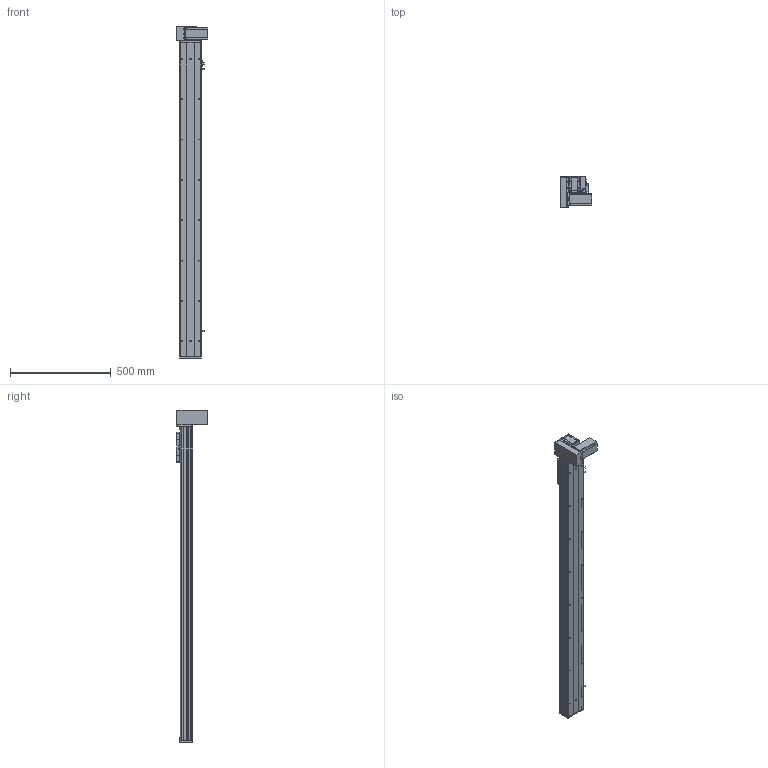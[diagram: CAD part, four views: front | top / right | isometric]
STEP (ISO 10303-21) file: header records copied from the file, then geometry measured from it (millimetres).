
FILE_DESCRIPTION (( 'STEP AP203' ), '1' );
FILE_NAME ('Y10CB-D90-S1300-BM-P400W.STEP', '2020-02-16T09:08:16', ( '微软用户' ), ( '微软中国' ), 'SwSTEP 2.0', 'SolidWorks 2017', '' );
FILE_SCHEMA (( 'CONFIG_CONTROL_DESIGN' ));
Length unit declared in the file: millimetre
Products named in the file (18): Y10B-耜蚾蟀諉啣----; Y10CB- 掛极耜裔啣-毀---; 0CB-雄赽釱---; Y10CB-D90-S1300-BM-P400W; Y10C---詩湍揤啣; 0Cb-俋欶---; 10CB9-掛极; Y10B-々湍喘謫眊楊擘啣--; 10CB-耜裔; 0B-萇儂楊擘啣; Y135C-陔俋离換覜結え-; san松下电机400不带刹车----; Y100-135俋离換覜ん--; 0B-源倛裔啣; Y10B--々湍喘謫眊--666; 0B-埴倛裔啣; 00B-俋欶BM--; 10CB-詩湍-
Assembly tree (21 placements, depth 2):
  Y10CB-D90-S1300-BM-P400W
    0CB-雄赽釱---
    0Cb-俋欶---
    Y10B-々湍喘謫眊楊擘啣--
    0B-萇儂楊擘啣
    san松下电机400不带刹车----
    0B-源倛裔啣
    0B-埴倛裔啣
    10CB-詩湍-
    Y10CB- 掛极耜裔啣-毀---  x2
    Y10C---詩湍揤啣  x2
    10CB9-掛极
    10CB-耜裔
    Y135C-陔俋离換覜結え-
    Y100-135俋离換覜ん--  x3
    Y10B--々湍喘謫眊--666
    00B-俋欶BM--
    Y10B-耜蚾蟀諉啣----
Bounding box: 157 x 156 x 1646 mm (x, y, z)
Volume: 3659559.5 mm3; surface area: 1675557.7 mm2
Topology: 21 solids, 21 shells, 1002 faces, 2683 edges, 1754 vertices
Faces by surface type: cylinder 499, plane 479, cone 24
Entity records: 31412 total; most frequent: CARTESIAN_POINT 5617, DIRECTION 5066, ORIENTED_EDGE 4836, EDGE_CURVE 2418, AXIS2_PLACEMENT_3D 1813, VERTEX_POINT 1580, VECTOR 1440, LINE 1440
